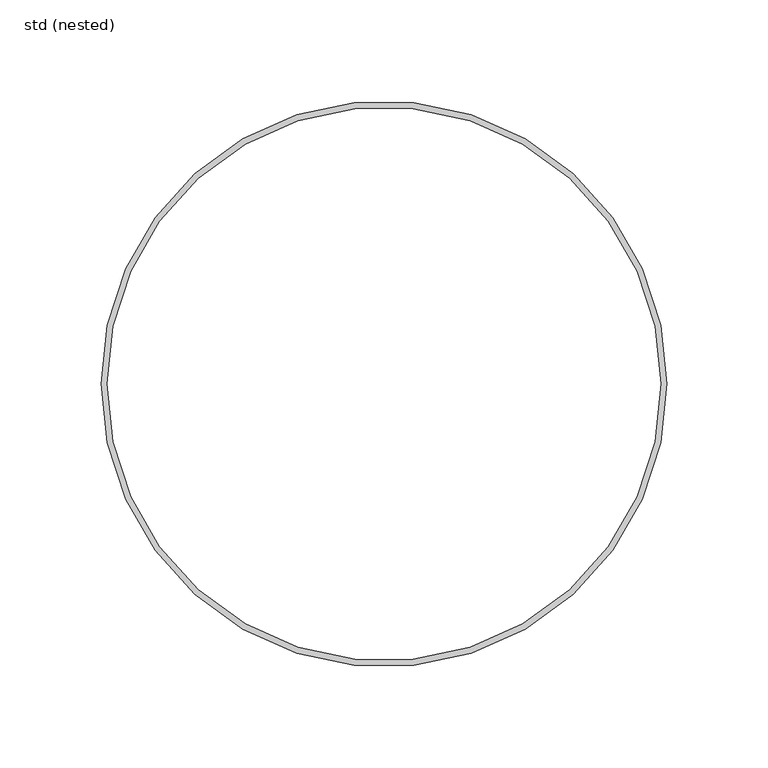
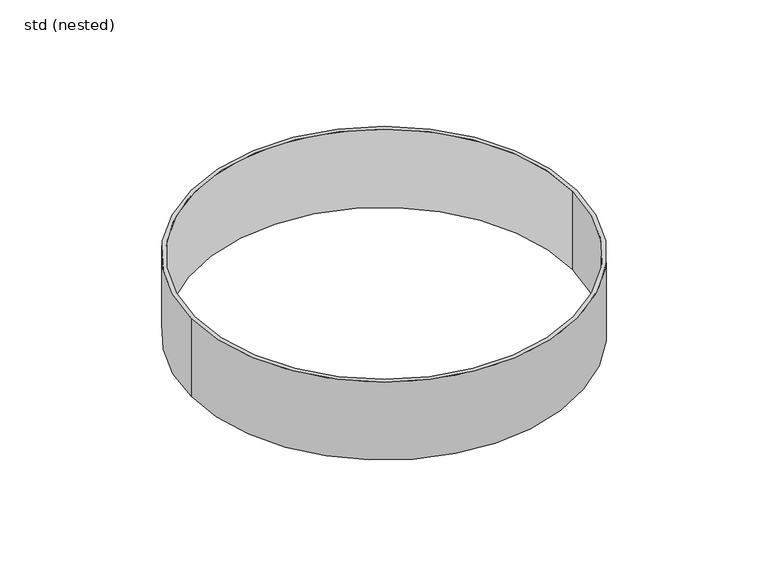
"""IFC4 building model written with IfcOpenShell, lengths in millimetres: pipe fitting geometry, ZZZ_do not use_PIF_ST_WPB_GM-X compound pipe clamp_ACO : std (nested)."""

from ifc_helpers import new_model, si_unit, point, frame, origin, origin_2d, place, context, project, spatial, circle_curve, trimmed, segment, composite_curve, outline, extrude, source, transform, mapped, element, save


def std_nested_c8d892e3(model_context):
    return source(origin(), model_context, "Body", "SweptSolid", [
        extrude(outline(composite_curve([segment(trimmed(circle_curve(origin_2d(), 140.0), [point((140.0, 0.0))], [point((-140.0, 0.0))], False, "CARTESIAN"), True, "CONTINUOUS"), segment(trimmed(circle_curve(origin_2d(), 140.0), [point((-140.0, 0.0))], [point((140.0, 0.0))], False, "CARTESIAN"), True, "CONTINUOUS")], self_intersect=False), holes=[composite_curve([segment(trimmed(circle_curve(origin_2d(), 137.0), [point((137.0, 0.0))], [point((-137.0, 0.0))], True, "CARTESIAN"), True, "CONTINUOUS"), segment(trimmed(circle_curve(origin_2d(), 137.0), [point((-137.0, 0.0))], [point((137.0, 0.0))], True, "CARTESIAN"), True, "CONTINUOUS")], self_intersect=False)]), frame((0.0, 0.0, -45.0), z_axis=(0.0, 0.0, 1.0), x_axis=(1.0, 0.0, 0.0)), (0.0, 0.0, 1.0), 60.0),
    ])


if __name__ == "__main__":
    model = new_model("IFC4")
    model_context = context("Model", 3, world=origin())
    ifc_project = project(units=[si_unit("LENGTHUNIT", "METRE", prefix="MILLI")], contexts=[model_context])
    site = spatial("IfcSite", under=ifc_project)
    building = spatial("IfcBuilding", under=site)
    placement = place(None, origin())
    std_nested_shape = std_nested_c8d892e3(model_context)
    element("IfcPipeFitting", 1, ObjectType="ZZZ_do not use_PIF_ST_WPB_GM-X compound pipe clamp_ACO : std (nested)", at=placement, inside=building, context=model_context, shape_type="MappedRepresentation", body=[
        mapped(std_nested_shape, transform((0.0, 0.0, 0.0), x_axis=(1.0, 0.0, 0.0), y_axis=(0.0, 1.0, 0.0), z_axis=(0.0, 0.0, 1.0))),
    ])
    save(model, "model.ifc")
